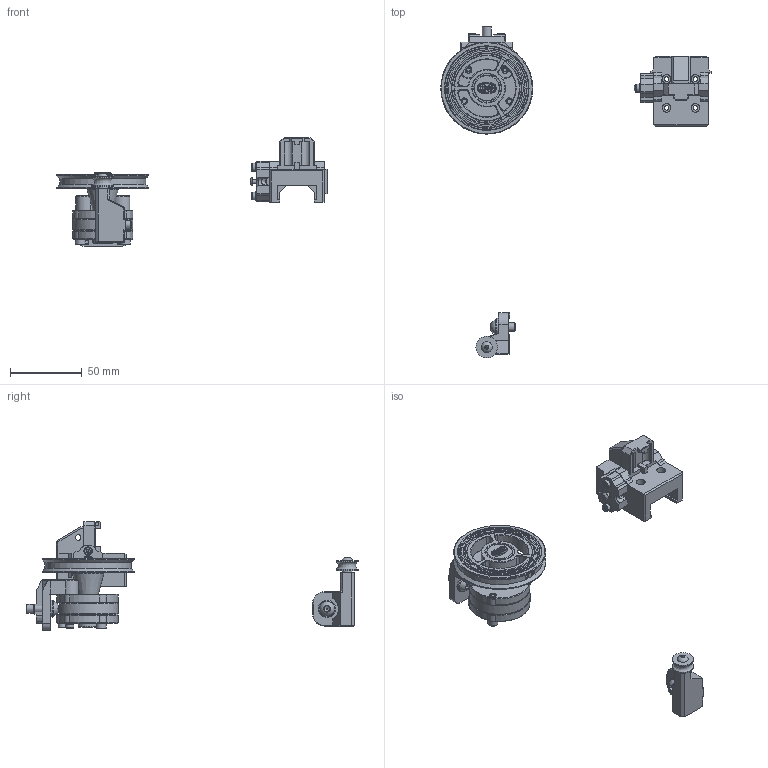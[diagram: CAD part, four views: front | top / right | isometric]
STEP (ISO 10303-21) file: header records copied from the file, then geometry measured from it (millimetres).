
FILE_DESCRIPTION(('FreeCAD Model'),'2;1');
FILE_NAME('Open CASCADE Shape Model','2022-01-08T23:56:35',('Author'),( ''),'Open CASCADE STEP processor 7.4','FreeCAD','Unknown');
FILE_SCHEMA(('AUTOMOTIVE_DESIGN { 1 0 10303 214 1 1 1 1 }'));
Length unit declared in the file: millimetre
Products named in the file (30): spring-box; bearing-6701ZZ1; bearing-6701ZZ2; housing-middle; housing-front; housing-back; pylley-25mm; pulley-30mm; 250-mounter; 180-mounter; axis; M6x14-Screw005; M6-Washer003; M3x20-Screw; M4x20-Screw002; M3-Washer005; M3x30-Screw001; M3-HeatSet007; M3x45-Screw001; top-pulley; U624ZZ-bearing; top-bearing-arm; spacer; M4x40-Screw; M4-HeatSet; z-rail-mount; wire-mounter; M3x14-Screw001; M3x6-Screw; z-rail-block-mount-right-with-limiter-dual
Assembly tree (47 placements, depth 2):
  spring-box
    bearing-6701ZZ1
    bearing-6701ZZ2
    housing-middle
    housing-front
    housing-back
    pylley-25mm
    pulley-30mm
    250-mounter
    180-mounter
    axis
    M6x14-Screw005  x3
    M6-Washer003  x3
    M3x20-Screw
    M4x20-Screw002  x2
    M3-Washer005  x2
    M3x30-Screw001  x2
    M3-HeatSet007  x7
    M3x45-Screw001  x2
  top-pulley
    U624ZZ-bearing
    top-bearing-arm
    spacer
    M6-Washer003
    M6x14-Screw005
    M4x40-Screw
    M4-HeatSet
  z-rail-mount
    wire-mounter
    M3-Washer005  x2
    M3x14-Screw001  x2
    M3-HeatSet007
    M3x6-Screw
    z-rail-block-mount-right-with-limiter-dual
Bounding box: 188 x 230.7 x 75.5 mm (x, y, z)
Volume: 133048.9 mm3; surface area: 71829.9 mm2
Topology: 47 solids, 47 shells, 1214 faces, 2646 edges, 1614 vertices
Faces by surface type: plane 544, cone 325, cylinder 280, revolution 25, sphere 21, bspline 19
Full cylindrical faces by diameter (mm): 2 x4, 2.7 x1, 3 x21, 3.2 x14, 3.3 x17, 3.775 x16, 3.8 x11, 3.86 x8, 3.9 x4, 4 x7, 4.4 x1, 4.55 x16, 5.085 x2, 5.1 x1, 5.5 x7, 5.51 x1, 6 x12, 6.17 x2, 6.3 x4, 6.4 x5, 7 x3, 11.9 x1, 12 x6, 12.1 x2, 13 x4, 13.9 x1, 14.1 x1, 15 x2, 16.1 x2, 17 x4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
Entity records: 64763 total; most frequent: CARTESIAN_POINT 18703, DIRECTION 8755, LINE 4568, VECTOR 4568, ORIENTED_EDGE 4422, PCURVE 4422, DEFINITIONAL_REPRESENTATION 4422, EDGE_CURVE 2211
